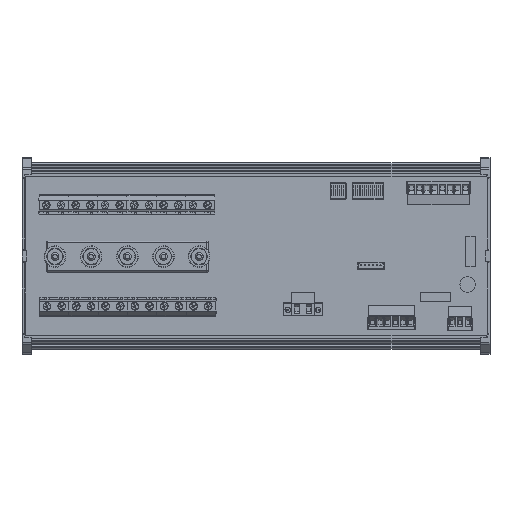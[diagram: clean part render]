
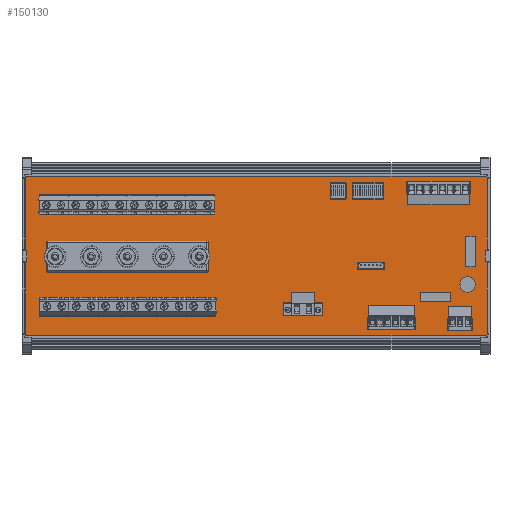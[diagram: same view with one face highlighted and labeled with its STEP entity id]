
A CAD part, top view. The second image highlights one B-rep face of the part: STEP entity #150130.
In plain terms, the highlighted planar face has unit normal (0, 0, 1).
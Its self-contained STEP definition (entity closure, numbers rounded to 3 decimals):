
#149816 = VERTEX_POINT('',#149817);
#149817 = CARTESIAN_POINT('',(0.,0.,1.6));
#149824 = PLANE('',#149825);
#149825 = AXIS2_PLACEMENT_3D('',#149826,#149827,#149828);
#149826 = CARTESIAN_POINT('',(0.,0.,0.));
#149827 = DIRECTION('',(1.,0.,0.));
#149828 = DIRECTION('',(0.,0.,1.));
#149836 = PLANE('',#149837);
#149837 = AXIS2_PLACEMENT_3D('',#149838,#149839,#149840);
#149838 = CARTESIAN_POINT('',(0.,0.,0.));
#149839 = DIRECTION('',(0.,1.,0.));
#149840 = DIRECTION('',(0.,0.,1.));
#149877 = VERTEX_POINT('',#149878);
#149878 = CARTESIAN_POINT('',(0.,108.,1.6));
#149892 = PLANE('',#149893);
#149893 = AXIS2_PLACEMENT_3D('',#149894,#149895,#149896);
#149894 = CARTESIAN_POINT('',(0.,108.,0.));
#149895 = DIRECTION('',(0.,1.,0.));
#149896 = DIRECTION('',(0.,0.,1.));
#149904 = EDGE_CURVE('',#149816,#149877,#149905,.T.);
#149905 = SURFACE_CURVE('',#149906,(#149910,#149917),.PCURVE_S1.);
#149906 = LINE('',#149907,#149908);
#149907 = CARTESIAN_POINT('',(0.,0.,1.6));
#149908 = VECTOR('',#149909,1.);
#149909 = DIRECTION('',(0.,1.,0.));
#149910 = PCURVE('',#149824,#149911);
#149911 = DEFINITIONAL_REPRESENTATION('',(#149912),#149916);
#149912 = LINE('',#149913,#149914);
#149913 = CARTESIAN_POINT('',(1.6,0.));
#149914 = VECTOR('',#149915,1.);
#149915 = DIRECTION('',(0.,-1.));
#149916 = ( GEOMETRIC_REPRESENTATION_CONTEXT(2) 
PARAMETRIC_REPRESENTATION_CONTEXT() REPRESENTATION_CONTEXT('2D SPACE',''
  ) );
#149917 = PCURVE('',#149918,#149923);
#149918 = PLANE('',#149919);
#149919 = AXIS2_PLACEMENT_3D('',#149920,#149921,#149922);
#149920 = CARTESIAN_POINT('',(0.,0.,1.6));
#149921 = DIRECTION('',(0.,0.,1.));
#149922 = DIRECTION('',(1.,0.,0.));
#149923 = DEFINITIONAL_REPRESENTATION('',(#149924),#149928);
#149924 = LINE('',#149925,#149926);
#149925 = CARTESIAN_POINT('',(0.,0.));
#149926 = VECTOR('',#149927,1.);
#149927 = DIRECTION('',(0.,1.));
#149928 = ( GEOMETRIC_REPRESENTATION_CONTEXT(2) 
PARAMETRIC_REPRESENTATION_CONTEXT() REPRESENTATION_CONTEXT('2D SPACE',''
  ) );
#149936 = VERTEX_POINT('',#149937);
#149937 = CARTESIAN_POINT('',(300.,0.,1.6));
#149944 = PLANE('',#149945);
#149945 = AXIS2_PLACEMENT_3D('',#149946,#149947,#149948);
#149946 = CARTESIAN_POINT('',(300.,0.,0.));
#149947 = DIRECTION('',(1.,0.,0.));
#149948 = DIRECTION('',(0.,0.,1.));
#149987 = VERTEX_POINT('',#149988);
#149988 = CARTESIAN_POINT('',(300.,108.,1.6));
#150009 = EDGE_CURVE('',#149936,#149987,#150010,.T.);
#150010 = SURFACE_CURVE('',#150011,(#150015,#150022),.PCURVE_S1.);
#150011 = LINE('',#150012,#150013);
#150012 = CARTESIAN_POINT('',(300.,0.,1.6));
#150013 = VECTOR('',#150014,1.);
#150014 = DIRECTION('',(0.,1.,0.));
#150015 = PCURVE('',#149944,#150016);
#150016 = DEFINITIONAL_REPRESENTATION('',(#150017),#150021);
#150017 = LINE('',#150018,#150019);
#150018 = CARTESIAN_POINT('',(1.6,0.));
#150019 = VECTOR('',#150020,1.);
#150020 = DIRECTION('',(0.,-1.));
#150021 = ( GEOMETRIC_REPRESENTATION_CONTEXT(2) 
PARAMETRIC_REPRESENTATION_CONTEXT() REPRESENTATION_CONTEXT('2D SPACE',''
  ) );
#150022 = PCURVE('',#149918,#150023);
#150023 = DEFINITIONAL_REPRESENTATION('',(#150024),#150028);
#150024 = LINE('',#150025,#150026);
#150025 = CARTESIAN_POINT('',(300.,0.));
#150026 = VECTOR('',#150027,1.);
#150027 = DIRECTION('',(0.,1.));
#150028 = ( GEOMETRIC_REPRESENTATION_CONTEXT(2) 
PARAMETRIC_REPRESENTATION_CONTEXT() REPRESENTATION_CONTEXT('2D SPACE',''
  ) );
#150055 = EDGE_CURVE('',#149816,#149936,#150056,.T.);
#150056 = SURFACE_CURVE('',#150057,(#150061,#150068),.PCURVE_S1.);
#150057 = LINE('',#150058,#150059);
#150058 = CARTESIAN_POINT('',(0.,0.,1.6));
#150059 = VECTOR('',#150060,1.);
#150060 = DIRECTION('',(1.,0.,0.));
#150061 = PCURVE('',#149836,#150062);
#150062 = DEFINITIONAL_REPRESENTATION('',(#150063),#150067);
#150063 = LINE('',#150064,#150065);
#150064 = CARTESIAN_POINT('',(1.6,0.));
#150065 = VECTOR('',#150066,1.);
#150066 = DIRECTION('',(0.,1.));
#150067 = ( GEOMETRIC_REPRESENTATION_CONTEXT(2) 
PARAMETRIC_REPRESENTATION_CONTEXT() REPRESENTATION_CONTEXT('2D SPACE',''
  ) );
#150068 = PCURVE('',#149918,#150069);
#150069 = DEFINITIONAL_REPRESENTATION('',(#150070),#150074);
#150070 = LINE('',#150071,#150072);
#150071 = CARTESIAN_POINT('',(0.,0.));
#150072 = VECTOR('',#150073,1.);
#150073 = DIRECTION('',(1.,0.));
#150074 = ( GEOMETRIC_REPRESENTATION_CONTEXT(2) 
PARAMETRIC_REPRESENTATION_CONTEXT() REPRESENTATION_CONTEXT('2D SPACE',''
  ) );
#150102 = EDGE_CURVE('',#149877,#149987,#150103,.T.);
#150103 = SURFACE_CURVE('',#150104,(#150108,#150115),.PCURVE_S1.);
#150104 = LINE('',#150105,#150106);
#150105 = CARTESIAN_POINT('',(0.,108.,1.6));
#150106 = VECTOR('',#150107,1.);
#150107 = DIRECTION('',(1.,0.,0.));
#150108 = PCURVE('',#149892,#150109);
#150109 = DEFINITIONAL_REPRESENTATION('',(#150110),#150114);
#150110 = LINE('',#150111,#150112);
#150111 = CARTESIAN_POINT('',(1.6,0.));
#150112 = VECTOR('',#150113,1.);
#150113 = DIRECTION('',(0.,1.));
#150114 = ( GEOMETRIC_REPRESENTATION_CONTEXT(2) 
PARAMETRIC_REPRESENTATION_CONTEXT() REPRESENTATION_CONTEXT('2D SPACE',''
  ) );
#150115 = PCURVE('',#149918,#150116);
#150116 = DEFINITIONAL_REPRESENTATION('',(#150117),#150121);
#150117 = LINE('',#150118,#150119);
#150118 = CARTESIAN_POINT('',(0.,108.));
#150119 = VECTOR('',#150120,1.);
#150120 = DIRECTION('',(1.,0.));
#150121 = ( GEOMETRIC_REPRESENTATION_CONTEXT(2) 
PARAMETRIC_REPRESENTATION_CONTEXT() REPRESENTATION_CONTEXT('2D SPACE',''
  ) );
#150130 = ADVANCED_FACE('',(#150131),#149918,.T.);
#150131 = FACE_BOUND('',#150132,.T.);
#150132 = EDGE_LOOP('',(#150133,#150134,#150135,#150136));
#150133 = ORIENTED_EDGE('',*,*,#149904,.F.);
#150134 = ORIENTED_EDGE('',*,*,#150055,.T.);
#150135 = ORIENTED_EDGE('',*,*,#150009,.T.);
#150136 = ORIENTED_EDGE('',*,*,#150102,.F.);
